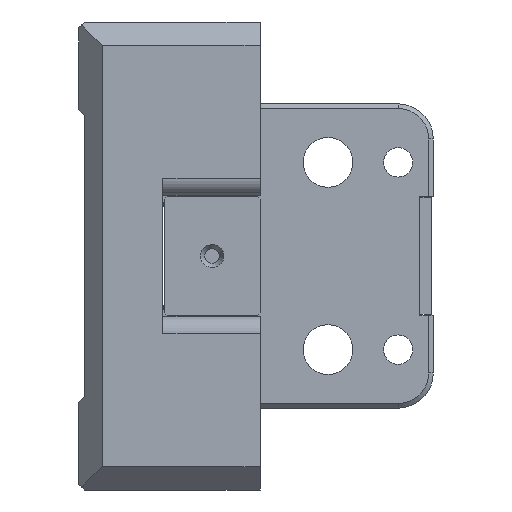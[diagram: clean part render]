
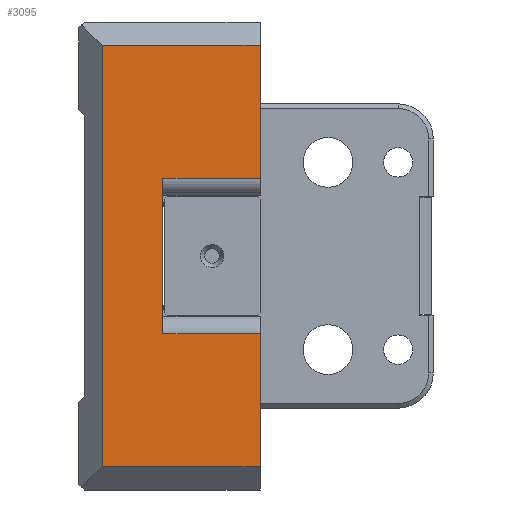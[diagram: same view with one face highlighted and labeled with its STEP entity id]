
A CAD part, left-side view. The second image highlights one B-rep face of the part: STEP entity #3095.
In plain terms, the highlighted planar face has unit normal (-1, 0, 0).
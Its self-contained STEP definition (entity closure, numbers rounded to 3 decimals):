
#34 = LINE ( 'NONE', #3113, #3121 ) ;
#49 = LINE ( 'NONE', #3697, #5129 ) ;
#65 = DIRECTION ( 'NONE',  ( 0., 0., 1. ) ) ;
#84 = CARTESIAN_POINT ( 'NONE',  ( -250., -31., -40. ) ) ;
#140 = DIRECTION ( 'NONE',  ( 0., 0., -1. ) ) ;
#252 = CARTESIAN_POINT ( 'NONE',  ( -250., -14.4, 13.3 ) ) ;
#265 = CARTESIAN_POINT ( 'NONE',  ( -250., -31., 36. ) ) ;
#322 = FACE_OUTER_BOUND ( 'NONE', #1004, .T. ) ;
#487 = VECTOR ( 'NONE', #2405, 1000. ) ;
#500 = DIRECTION ( 'NONE',  ( 0., -1., 0. ) ) ;
#655 = ORIENTED_EDGE ( 'NONE', *, *, #1639, .T. ) ;
#660 = CARTESIAN_POINT ( 'NONE',  ( -250., -31., -40. ) ) ;
#1004 = EDGE_LOOP ( 'NONE', ( #1404, #655, #1627, #5155, #1977, #2801, #1713, #4650 ) ) ;
#1139 = LINE ( 'NONE', #84, #2060 ) ;
#1257 = LINE ( 'NONE', #4905, #4308 ) ;
#1379 = AXIS2_PLACEMENT_3D ( 'NONE', #4857, #2477, #65 ) ;
#1404 = ORIENTED_EDGE ( 'NONE', *, *, #4126, .T. ) ;
#1547 = LINE ( 'NONE', #1730, #3793 ) ;
#1627 = ORIENTED_EDGE ( 'NONE', *, *, #3144, .T. ) ;
#1639 = EDGE_CURVE ( 'NONE', #3282, #3995, #1257, .T. ) ;
#1665 = PLANE ( 'NONE',  #1379 ) ;
#1713 = ORIENTED_EDGE ( 'NONE', *, *, #4102, .T. ) ;
#1729 = VERTEX_POINT ( 'NONE', #2511 ) ;
#1730 = CARTESIAN_POINT ( 'NONE',  ( -250., -14.4, -13.3 ) ) ;
#1792 = CARTESIAN_POINT ( 'NONE',  ( -250., -4., -36. ) ) ;
#1977 = ORIENTED_EDGE ( 'NONE', *, *, #5118, .F. ) ;
#1986 = CARTESIAN_POINT ( 'NONE',  ( -250., -31., 36. ) ) ;
#2060 = VECTOR ( 'NONE', #3297, 1000. ) ;
#2080 = VERTEX_POINT ( 'NONE', #265 ) ;
#2115 = VERTEX_POINT ( 'NONE', #2301 ) ;
#2127 = DIRECTION ( 'NONE',  ( 0., -1., 0. ) ) ;
#2176 = VECTOR ( 'NONE', #2274, 1000. ) ;
#2192 = CARTESIAN_POINT ( 'NONE',  ( -250., -4., 36. ) ) ;
#2274 = DIRECTION ( 'NONE',  ( 0., -1., 0. ) ) ;
#2301 = CARTESIAN_POINT ( 'NONE',  ( -250., -31., 13.3 ) ) ;
#2405 = DIRECTION ( 'NONE',  ( 0., 1., 0. ) ) ;
#2477 = DIRECTION ( 'NONE',  ( -1., 0., 0. ) ) ;
#2511 = CARTESIAN_POINT ( 'NONE',  ( -250., -31., -13.3 ) ) ;
#2693 = VERTEX_POINT ( 'NONE', #2192 ) ;
#2801 = ORIENTED_EDGE ( 'NONE', *, *, #4559, .T. ) ;
#3095 = ADVANCED_FACE ( 'NONE', ( #322 ), #1665, .T. ) ;
#3113 = CARTESIAN_POINT ( 'NONE',  ( -250., -4., -40. ) ) ;
#3121 = VECTOR ( 'NONE', #3537, 1000. ) ;
#3144 = EDGE_CURVE ( 'NONE', #3995, #1729, #1139, .T. ) ;
#3154 = EDGE_CURVE ( 'NONE', #3738, #1729, #49, .T. ) ;
#3282 = VERTEX_POINT ( 'NONE', #1792 ) ;
#3297 = DIRECTION ( 'NONE',  ( 0., 0., 1. ) ) ;
#3385 = LINE ( 'NONE', #660, #4303 ) ;
#3537 = DIRECTION ( 'NONE',  ( 0., 0., -1. ) ) ;
#3697 = CARTESIAN_POINT ( 'NONE',  ( -250., -14.4, -13.3 ) ) ;
#3738 = VERTEX_POINT ( 'NONE', #4937 ) ;
#3769 = VERTEX_POINT ( 'NONE', #4158 ) ;
#3793 = VECTOR ( 'NONE', #140, 1000. ) ;
#3995 = VERTEX_POINT ( 'NONE', #5104 ) ;
#4102 = EDGE_CURVE ( 'NONE', #2115, #2080, #3385, .T. ) ;
#4126 = EDGE_CURVE ( 'NONE', #2693, #3282, #34, .T. ) ;
#4158 = CARTESIAN_POINT ( 'NONE',  ( -250., -14.4, 13.3 ) ) ;
#4239 = EDGE_CURVE ( 'NONE', #2080, #2693, #4739, .T. ) ;
#4296 = LINE ( 'NONE', #252, #2176 ) ;
#4303 = VECTOR ( 'NONE', #5090, 1000. ) ;
#4308 = VECTOR ( 'NONE', #2127, 1000. ) ;
#4559 = EDGE_CURVE ( 'NONE', #3769, #2115, #4296, .T. ) ;
#4650 = ORIENTED_EDGE ( 'NONE', *, *, #4239, .T. ) ;
#4739 = LINE ( 'NONE', #1986, #487 ) ;
#4857 = CARTESIAN_POINT ( 'NONE',  ( -250., -31., -40. ) ) ;
#4905 = CARTESIAN_POINT ( 'NONE',  ( -250., -31., -36. ) ) ;
#4937 = CARTESIAN_POINT ( 'NONE',  ( -250., -14.4, -13.3 ) ) ;
#5090 = DIRECTION ( 'NONE',  ( 0., 0., 1. ) ) ;
#5104 = CARTESIAN_POINT ( 'NONE',  ( -250., -31., -36. ) ) ;
#5118 = EDGE_CURVE ( 'NONE', #3769, #3738, #1547, .T. ) ;
#5129 = VECTOR ( 'NONE', #500, 1000. ) ;
#5155 = ORIENTED_EDGE ( 'NONE', *, *, #3154, .F. ) ;
